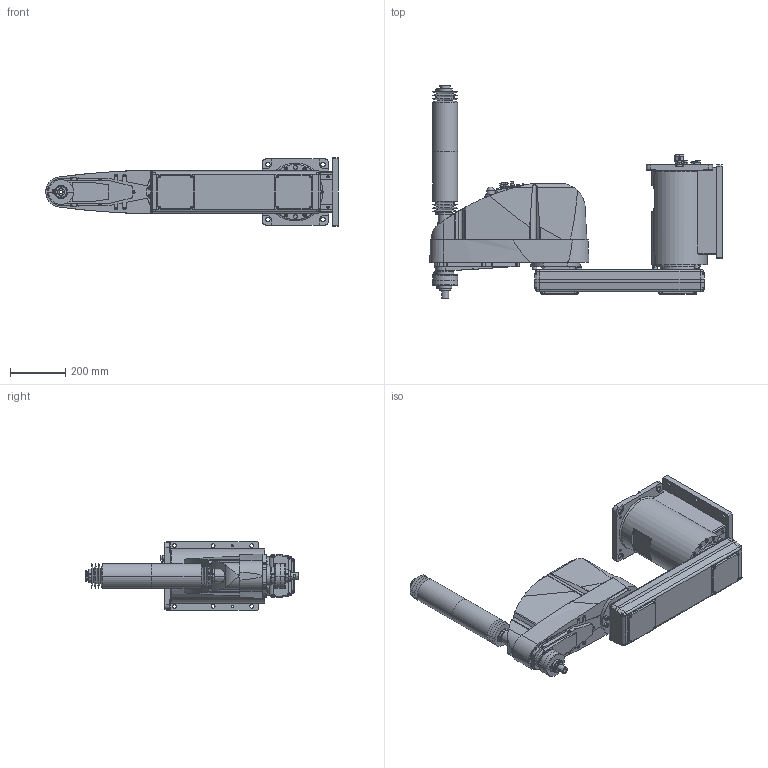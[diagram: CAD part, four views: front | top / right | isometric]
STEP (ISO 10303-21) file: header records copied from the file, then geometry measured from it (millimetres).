
FILE_DESCRIPTION( ( '' ), '1' );
FILE_NAME( '//expscmdclustefs.cadenas.external/client_exchange/iodir/jobs/output/wkb51506938_no0/STEP/G20_854CW_2_03.stp', '2012-11-22T13:50:28', ( '' ), ( '' ), ' ', ' ', ' ' );
FILE_SCHEMA( ( 'CONFIG_CONTROL_DESIGN' ) );
Length unit declared in the file: millimetre
Products named in the file (8): 1; 2; 3; 4; 5; 6; 7; 8
Bounding box: 1060.5 x 774 x 250 mm (x, y, z)
Volume: 44880464.7 mm3; surface area: 1838959.4 mm2
Topology: 8 solids, 8 shells, 2083 faces, 5049 edges, 3273 vertices
Faces by surface type: plane 1104, cylinder 705, cone 244, torus 29, sphere 1
Entity records: 63294 total; most frequent: CARTESIAN_POINT 12676, DIRECTION 10850, ORIENTED_EDGE 10082, EDGE_CURVE 5041, AXIS2_PLACEMENT_3D 3873, VERTEX_POINT 3273, LINE 3104, VECTOR 3104
